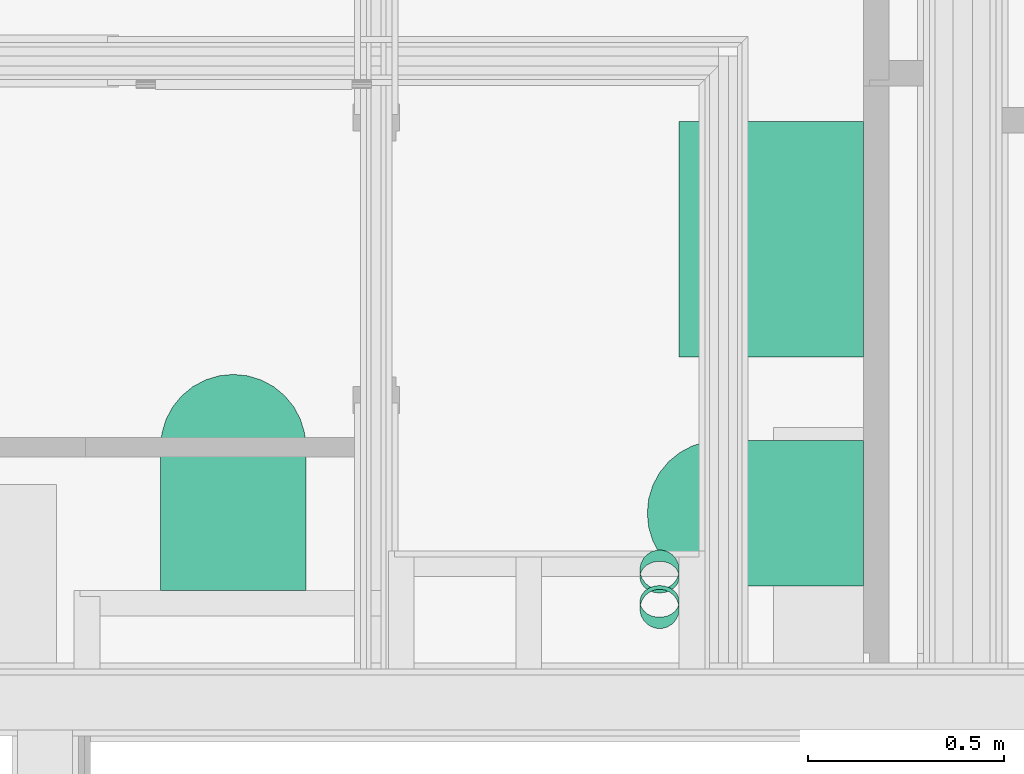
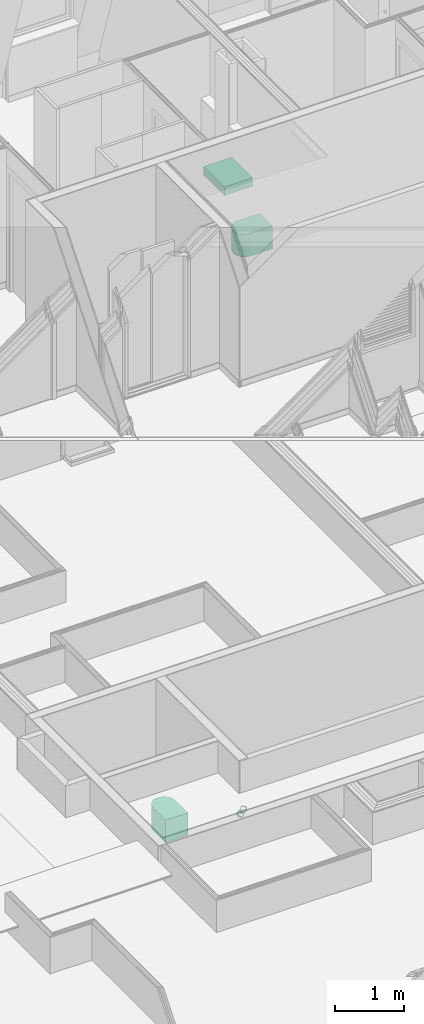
# One storey, part 158 of 169: 3 flow terminals, 2 flow fittings.
"""IFC2X3 building model written with IfcOpenShell, lengths in metres."""

from ifc_helpers import new_model, entity, si_unit, converted_unit, derived_unit, money_unit, direction, frame, origin_with_axes, place, context, subcontext, project, spatial, open_shell, faceted_brep, surface_model, material, type_object, element, save


model = new_model("IFC2X3")

# Units and contexts
model_context = context("Model", 3, precision=1e-05, world=origin_with_axes(), true_north=direction((0.0, 1.0)))
body_context = subcontext(model_context, "Body", "Model", "MODEL_VIEW", scale=1.0)
ifc_project = project(units=[si_unit("LENGTHUNIT", "METRE"), si_unit("AREAUNIT", "SQUARE_METRE"), si_unit("VOLUMEUNIT", "CUBIC_METRE"), si_unit("ABSORBEDDOSEUNIT", "GRAY"), si_unit("AMOUNTOFSUBSTANCEUNIT", "MOLE"), si_unit("DOSEEQUIVALENTUNIT", "SIEVERT"), si_unit("ELECTRICCAPACITANCEUNIT", "FARAD"), si_unit("ELECTRICCHARGEUNIT", "COULOMB"), si_unit("ELECTRICCONDUCTANCEUNIT", "SIEMENS"), si_unit("ELECTRICCURRENTUNIT", "AMPERE"), si_unit("ELECTRICRESISTANCEUNIT", "OHM"), si_unit("ELECTRICVOLTAGEUNIT", "VOLT"), si_unit("ENERGYUNIT", "JOULE"), si_unit("FORCEUNIT", "NEWTON"), si_unit("FREQUENCYUNIT", "HERTZ"), si_unit("ILLUMINANCEUNIT", "LUX"), si_unit("INDUCTANCEUNIT", "HENRY"), si_unit("LUMINOUSFLUXUNIT", "LUMEN"), si_unit("LUMINOUSINTENSITYUNIT", "CANDELA"), si_unit("MAGNETICFLUXDENSITYUNIT", "TESLA"), si_unit("MAGNETICFLUXUNIT", "WEBER"), si_unit("MASSUNIT", "GRAM"), converted_unit("PLANEANGLEUNIT", "degree", entity("IfcReal", 0.0174532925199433), si_unit("PLANEANGLEUNIT", "RADIAN"), dimensions=[0, 0, 0, 0, 0, 0, 0]), si_unit("POWERUNIT", "WATT"), si_unit("PRESSUREUNIT", "PASCAL"), si_unit("RADIOACTIVITYUNIT", "BECQUEREL"), si_unit("SOLIDANGLEUNIT", "STERADIAN"), si_unit("THERMODYNAMICTEMPERATUREUNIT", "KELVIN"), si_unit("TIMEUNIT", "SECOND"), derived_unit("ACCELERATIONUNIT", [(si_unit("LENGTHUNIT", "METRE"), 1), (si_unit("TIMEUNIT", "SECOND"), -2)]), derived_unit("ANGULARVELOCITYUNIT", [(converted_unit("PLANEANGLEUNIT", "degree", entity("IfcReal", 0.0174532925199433), si_unit("PLANEANGLEUNIT", "RADIAN"), dimensions=[0, 0, 0, 0, 0, 0, 0]), 1), (si_unit("TIMEUNIT", "SECOND"), -1)]), derived_unit("CURVATUREUNIT", [(converted_unit("PLANEANGLEUNIT", "degree", entity("IfcReal", 0.0174532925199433), si_unit("PLANEANGLEUNIT", "RADIAN"), dimensions=[0, 0, 0, 0, 0, 0, 0]), 1), (si_unit("LENGTHUNIT", "METRE"), -1)]), derived_unit("DYNAMICVISCOSITYUNIT", [(si_unit("PRESSUREUNIT", "PASCAL"), 1), (si_unit("TIMEUNIT", "SECOND"), 1)]), derived_unit("HEATFLUXDENSITYUNIT", [(si_unit("POWERUNIT", "WATT"), 1), (si_unit("LENGTHUNIT", "METRE"), -2)]), derived_unit("HEATINGVALUEUNIT", [(si_unit("ENERGYUNIT", "JOULE"), 1), (si_unit("MASSUNIT", "GRAM"), -1)]), derived_unit("INTEGERCOUNTRATEUNIT", [(si_unit("TIMEUNIT", "SECOND"), -1)]), derived_unit("IONCONCENTRATIONUNIT", [(si_unit("MASSUNIT", "GRAM"), 1), (si_unit("VOLUMEUNIT", "CUBIC_METRE"), -1)]), derived_unit("ISOTHERMALMOISTURECAPACITYUNIT", [(si_unit("VOLUMEUNIT", "CUBIC_METRE"), 1), (si_unit("MASSUNIT", "GRAM"), -1)]), derived_unit("KINEMATICVISCOSITYUNIT", [(si_unit("AREAUNIT", "SQUARE_METRE"), 1), (si_unit("TIMEUNIT", "SECOND"), -1)]), derived_unit("LINEARFORCEUNIT", [(si_unit("FORCEUNIT", "NEWTON"), 1), (si_unit("LENGTHUNIT", "METRE"), -1)]), derived_unit("LINEARMOMENTUNIT", [(si_unit("FORCEUNIT", "NEWTON"), 1), (si_unit("LENGTHUNIT", "METRE"), -1)]), derived_unit("LINEARSTIFFNESSUNIT", [(si_unit("FORCEUNIT", "NEWTON"), 1), (si_unit("LENGTHUNIT", "METRE"), -1)]), derived_unit("LINEARVELOCITYUNIT", [(si_unit("LENGTHUNIT", "METRE"), 1), (si_unit("TIMEUNIT", "SECOND"), -1)]), derived_unit("LUMINOUSINTENSITYDISTRIBUTIONUNIT", [(si_unit("LUMINOUSINTENSITYUNIT", "CANDELA"), 1), (si_unit("LUMINOUSFLUXUNIT", "LUMEN"), -1)]), derived_unit("MASSDENSITYUNIT", [(si_unit("MASSUNIT", "GRAM"), 1), (si_unit("VOLUMEUNIT", "CUBIC_METRE"), -1)]), derived_unit("MASSFLOWRATEUNIT", [(si_unit("MASSUNIT", "GRAM"), 1), (si_unit("TIMEUNIT", "SECOND"), -1)]), derived_unit("MASSPERLENGTHUNIT", [(si_unit("MASSUNIT", "GRAM"), 1), (si_unit("LENGTHUNIT", "METRE"), -1)]), derived_unit("MODULUSOFELASTICITYUNIT", [(si_unit("FORCEUNIT", "NEWTON"), 1), (si_unit("AREAUNIT", "SQUARE_METRE"), -1)]), derived_unit("MODULUSOFLINEARSUBGRADEREACTIONUNIT", [(si_unit("FORCEUNIT", "NEWTON"), 1), (si_unit("LENGTHUNIT", "METRE"), -2)]), derived_unit("MODULUSOFROTATIONALSUBGRADEREACTIONUNIT", [(si_unit("FORCEUNIT", "NEWTON"), 1), (si_unit("LENGTHUNIT", "METRE"), 1)]), derived_unit("MODULUSOFSUBGRADEREACTIONUNIT", [(si_unit("FORCEUNIT", "NEWTON"), 1), (si_unit("VOLUMEUNIT", "CUBIC_METRE"), -1)]), derived_unit("MOISTUREDIFFUSIVITYUNIT", [(si_unit("VOLUMEUNIT", "CUBIC_METRE"), 1), (si_unit("TIMEUNIT", "SECOND"), -1)]), derived_unit("MOLECULARWEIGHTUNIT", [(si_unit("MASSUNIT", "GRAM"), 1), (si_unit("AMOUNTOFSUBSTANCEUNIT", "MOLE"), -1)]), derived_unit("PLANARFORCEUNIT", [(si_unit("FORCEUNIT", "NEWTON"), 1), (si_unit("LENGTHUNIT", "METRE"), -2)]), derived_unit("ROTATIONALFREQUENCYUNIT", [(si_unit("TIMEUNIT", "SECOND"), -1)]), derived_unit("ROTATIONALMASSUNIT", [(si_unit("MASSUNIT", "GRAM"), 1), (si_unit("LENGTHUNIT", "METRE"), 2)]), derived_unit("ROTATIONALSTIFFNESSUNIT", [(si_unit("FORCEUNIT", "NEWTON"), 1), (si_unit("LENGTHUNIT", "METRE"), 1), (converted_unit("PLANEANGLEUNIT", "degree", entity("IfcReal", 0.0174532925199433), si_unit("PLANEANGLEUNIT", "RADIAN"), dimensions=[0, 0, 0, 0, 0, 0, 0]), -1)]), derived_unit("SECTIONAREAINTEGRALUNIT", [(si_unit("LENGTHUNIT", "METRE"), 5)]), derived_unit("SECTIONMODULUSUNIT", [(si_unit("LENGTHUNIT", "METRE"), 3)]), derived_unit("SHEARMODULUSUNIT", [(si_unit("FORCEUNIT", "NEWTON"), 1), (si_unit("AREAUNIT", "SQUARE_METRE"), -1)]), derived_unit("SOUNDPOWERUNIT", [(si_unit("ENERGYUNIT", "JOULE"), 1), (si_unit("TIMEUNIT", "SECOND"), -1)]), derived_unit("SPECIFICHEATCAPACITYUNIT", [(si_unit("FORCEUNIT", "NEWTON"), 1), (si_unit("MASSUNIT", "GRAM"), -1), (si_unit("THERMODYNAMICTEMPERATUREUNIT", "KELVIN"), -1)]), derived_unit("TEMPERATUREGRADIENTUNIT", [(si_unit("THERMODYNAMICTEMPERATUREUNIT", "KELVIN"), 1), (si_unit("LENGTHUNIT", "METRE"), -1)]), derived_unit("THERMALADMITTANCEUNIT", [(si_unit("POWERUNIT", "WATT"), 1), (si_unit("AREAUNIT", "SQUARE_METRE"), -1), (si_unit("THERMODYNAMICTEMPERATUREUNIT", "KELVIN"), -1)]), derived_unit("THERMALCONDUCTANCEUNIT", [(si_unit("POWERUNIT", "WATT"), 1), (si_unit("LENGTHUNIT", "METRE"), -1), (si_unit("THERMODYNAMICTEMPERATUREUNIT", "KELVIN"), -1)]), derived_unit("THERMALEXPANSIONCOEFFICIENTUNIT", [(si_unit("THERMODYNAMICTEMPERATUREUNIT", "KELVIN"), -1)]), derived_unit("THERMALRESISTANCEUNIT", [(si_unit("AREAUNIT", "SQUARE_METRE"), 1), (si_unit("POWERUNIT", "WATT"), -1)]), derived_unit("THERMALTRANSMITTANCEUNIT", [(si_unit("POWERUNIT", "WATT"), 1), (si_unit("AREAUNIT", "SQUARE_METRE"), -1), (si_unit("THERMODYNAMICTEMPERATUREUNIT", "KELVIN"), -1)]), derived_unit("TORQUEUNIT", [(si_unit("FORCEUNIT", "NEWTON"), 1), (si_unit("LENGTHUNIT", "METRE"), 1)]), derived_unit("VAPORPERMEABILITYUNIT", [(si_unit("MASSUNIT", "GRAM"), 1), (si_unit("TIMEUNIT", "SECOND"), -1)]), derived_unit("VOLUMETRICFLOWRATEUNIT", [(si_unit("VOLUMEUNIT", "CUBIC_METRE"), 1), (si_unit("TIMEUNIT", "SECOND"), -1)]), derived_unit("WARPINGCONSTANTUNIT", [(si_unit("LENGTHUNIT", "METRE"), 6)]), derived_unit("WARPINGMOMENTUNIT", [(si_unit("FORCEUNIT", "NEWTON"), 1), (si_unit("LENGTHUNIT", "METRE"), 2)]), money_unit("GBP")], contexts=[model_context])

# Site, building, storey, space
site_placement = place(None, origin_with_axes())
site = spatial("IfcSite", under=ifc_project, at=site_placement, Name="Site", CompositionType="ELEMENT")
building_placement = place(site_placement, origin_with_axes())
building = spatial("IfcBuilding", under=site, at=building_placement, Name="Building01", CompositionType="ELEMENT")
storey_placement = place(building_placement, frame((0.0, 0.0, 5.15), z_axis=(0.0, 0.0, 1.0), x_axis=(1.0, 0.0, 0.0)))
storey = spatial("IfcBuildingStorey", under=building, at=storey_placement, Name="1F", CompositionType="ELEMENT", Elevation=5.15)
space_1_placement = place(storey_placement, frame((12.893585, 8.82, 0.017975), z_axis=(0.0, 0.0, 1.0), x_axis=(0.0, 1.0, 0.0)))
space_1 = spatial("IfcSpace", under=storey, at=space_1_placement, Name="bath", CompositionType="ELEMENT", InteriorOrExteriorSpace="NOTDEFINED")

# Flow fittings
ifc_material = material(Name="M_BSUK_ColdWater")
pipe_fitting_type = type_object("IfcPipeFittingType", Name="M-BmpElbow-DefaultElbow", PredefinedType="BEND")
placement = place(building_placement, origin_with_axes())
flow_fitting_1_placement = place(placement, frame((12.778585, 8.973056, 5.357462), z_axis=(0.0, -1.0, 0.0), x_axis=(0.0, 0.0, -1.0)))
element("IfcFlowFitting", 1, at=flow_fitting_1_placement, inside=space_1, type_object=pipe_fitting_type, material=ifc_material, Name="M-BmpElbow-DefaultElbow", ObjectType="M-BmpElbow-DefaultElbow", context=body_context, shape_type="SurfaceModel", body=[
    surface_model("IfcShellBasedSurfaceModel", [(0.008104, -0.01349, -0.048783), (0.0, -0.01349, -0.048146), (0.0, 0.0, -0.05), (0.007814, 0.0, -0.050614), (0.016009, -0.01349, -0.050679), (0.015436, 0.0, -0.052442), (0.02352, -0.01349, -0.053787), (0.022679, 0.0, -0.055439), (0.030453, -0.01349, -0.05803), (0.029364, 0.0, -0.059531), (0.008952, -0.025979, -0.043425), (0.0, -0.025979, -0.042721), (0.017683, -0.025979, -0.045519), (0.025981, -0.025979, -0.048952), (0.033639, -0.025979, -0.05364), (0.010295, -0.036542, -0.034937), (0.0, -0.036542, -0.034128), (0.020336, -0.036542, -0.037345), (0.029878, -0.036542, -0.041294), (0.038686, -0.036542, -0.046684), (0.012033, -0.044394, -0.023949), (0.0, -0.044394, -0.023003), (0.023771, -0.044394, -0.026764), (0.034924, -0.044394, -0.031379), (0.045219, -0.044394, -0.037681), (0.014038, -0.048954, -0.011277), (0.0, -0.048954, -0.010173), (0.027732, -0.048954, -0.014561), (0.040744, -0.048954, -0.019945), (0.052754, -0.048954, -0.027296), (0.016162, -0.049883, 0.002141), (0.0, -0.049883, 0.003412), (0.031926, -0.049883, -0.001639), (0.046906, -0.049883, -0.007837), (0.060733, -0.049883, -0.0163), (0.018245, -0.047113, 0.015309), (0.0, -0.047113, 0.016744), (0.036042, -0.047113, 0.011041), (0.052953, -0.047113, 0.004044), (0.068562, -0.047113, -0.00551), (0.020135, -0.040848, 0.027251), (0.0, -0.040848, 0.028834), (0.039774, -0.040848, 0.022541), (0.058436, -0.040848, 0.014819), (0.075663, -0.040848, 0.004275), (0.02169, -0.031554, 0.03708), (0.0, -0.031554, 0.038786), (0.042847, -0.031554, 0.032006), (0.06295, -0.031554, 0.023688), (0.081507, -0.031554, 0.01233), (0.022795, -0.01992, 0.044068), (0.0, -0.01992, 0.045861), (0.045031, -0.01992, 0.038735), (0.066159, -0.01992, 0.029993), (0.085662, -0.01992, 0.018056), (0.02337, -0.006808, 0.047697), (0.0, -0.006808, 0.049534), (0.046165, -0.006808, 0.04223), (0.067826, -0.006808, 0.033267), (0.08782, -0.006808, 0.02103), (0.02337, 0.006808, 0.047697), (0.0, 0.006808, 0.049534), (0.046165, 0.006808, 0.04223), (0.067826, 0.006808, 0.033267), (0.08782, 0.006808, 0.02103), (0.022795, 0.01992, 0.044068), (0.0, 0.01992, 0.045861), (0.045031, 0.01992, 0.038735), (0.066159, 0.01992, 0.029993), (0.085662, 0.01992, 0.018056), (0.02169, 0.031554, 0.03708), (0.0, 0.031554, 0.038786), (0.042847, 0.031554, 0.032006), (0.06295, 0.031554, 0.023688), (0.081507, 0.031554, 0.01233), (0.020135, 0.040848, 0.027251), (0.0, 0.040848, 0.028834), (0.039774, 0.040848, 0.022541), (0.058436, 0.040848, 0.014819), (0.075663, 0.040848, 0.004275), (0.018245, 0.047113, 0.015309), (0.0, 0.047113, 0.016744), (0.036042, 0.047113, 0.011041), (0.052953, 0.047113, 0.004044), (0.068562, 0.047113, -0.00551), (0.016162, 0.049883, 0.002141), (0.0, 0.049883, 0.003412), (0.031926, 0.049883, -0.001639), (0.046906, 0.049883, -0.007837), (0.060733, 0.049883, -0.0163), (0.014038, 0.048954, -0.011277), (0.0, 0.048954, -0.010173), (0.027732, 0.048954, -0.014561), (0.040744, 0.048954, -0.019945), (0.052754, 0.048954, -0.027296), (0.012033, 0.044394, -0.023949), (0.0, 0.044394, -0.023003), (0.023771, 0.044394, -0.026764), (0.034924, 0.044394, -0.031379), (0.045219, 0.044394, -0.037681), (0.010295, 0.036542, -0.034937), (0.0, 0.036542, -0.034128), (0.020336, 0.036542, -0.037345), (0.029878, 0.036542, -0.041294), (0.038686, 0.036542, -0.046684), (0.008952, 0.025979, -0.043425), (0.0, 0.025979, -0.042721), (0.017683, 0.025979, -0.045519), (0.025981, 0.025979, -0.048952), (0.033639, 0.025979, -0.05364), (0.008104, 0.01349, -0.048783), (0.0, 0.01349, -0.048146), (0.016009, 0.01349, -0.050679), (0.02352, 0.01349, -0.053787), (0.030453, 0.01349, -0.05803)], [open_shell([[[0, 1, 2, 3]], [[4, 0, 3, 5]], [[6, 4, 5, 7]], [[8, 6, 7, 9]], [[10, 11, 1, 0]], [[12, 10, 0, 4]], [[13, 12, 4, 6]], [[14, 13, 6, 8]], [[15, 16, 11, 10]], [[17, 15, 10, 12]], [[18, 17, 12, 13]], [[19, 18, 13, 14]], [[20, 21, 16, 15]], [[22, 20, 15, 17]], [[23, 22, 17, 18]], [[24, 23, 18, 19]], [[25, 26, 21, 20]], [[27, 25, 20, 22]], [[28, 27, 22, 23]], [[29, 28, 23, 24]], [[30, 31, 26, 25]], [[32, 30, 25, 27]], [[33, 32, 27, 28]], [[34, 33, 28, 29]], [[35, 36, 31, 30]], [[37, 35, 30, 32]], [[38, 37, 32, 33]], [[39, 38, 33, 34]], [[40, 41, 36, 35]], [[42, 40, 35, 37]], [[43, 42, 37, 38]], [[44, 43, 38, 39]], [[45, 46, 41, 40]], [[47, 45, 40, 42]], [[48, 47, 42, 43]], [[49, 48, 43, 44]], [[50, 51, 46, 45]], [[52, 50, 45, 47]], [[53, 52, 47, 48]], [[54, 53, 48, 49]], [[55, 56, 51, 50]], [[57, 55, 50, 52]], [[58, 57, 52, 53]], [[59, 58, 53, 54]], [[60, 61, 56, 55]], [[62, 60, 55, 57]], [[63, 62, 57, 58]], [[64, 63, 58, 59]], [[65, 66, 61, 60]], [[67, 65, 60, 62]], [[68, 67, 62, 63]], [[69, 68, 63, 64]], [[70, 71, 66, 65]], [[72, 70, 65, 67]], [[73, 72, 67, 68]], [[74, 73, 68, 69]], [[75, 76, 71, 70]], [[77, 75, 70, 72]], [[78, 77, 72, 73]], [[79, 78, 73, 74]], [[80, 81, 76, 75]], [[82, 80, 75, 77]], [[83, 82, 77, 78]], [[84, 83, 78, 79]], [[85, 86, 81, 80]], [[87, 85, 80, 82]], [[88, 87, 82, 83]], [[89, 88, 83, 84]], [[90, 91, 86, 85]], [[92, 90, 85, 87]], [[93, 92, 87, 88]], [[94, 93, 88, 89]], [[95, 96, 91, 90]], [[97, 95, 90, 92]], [[98, 97, 92, 93]], [[99, 98, 93, 94]], [[100, 101, 96, 95]], [[102, 100, 95, 97]], [[103, 102, 97, 98]], [[104, 103, 98, 99]], [[105, 106, 101, 100]], [[107, 105, 100, 102]], [[108, 107, 102, 103]], [[109, 108, 103, 104]], [[110, 111, 106, 105]], [[112, 110, 105, 107]], [[113, 112, 107, 108]], [[114, 113, 108, 109]], [[3, 2, 111, 110]], [[5, 3, 110, 112]], [[7, 5, 112, 113]], [[9, 7, 113, 114]]])]),
])
flow_fitting_2_placement = place(placement, frame((12.778585, 9.053994, 5.213459), z_axis=(0.0, 0.8093782, 0.58728777), x_axis=(0.0, 0.58728776, -0.80937821)))
element("IfcFlowFitting", 2, at=flow_fitting_2_placement, inside=space_1, type_object=pipe_fitting_type, material=ifc_material, Name="M-BmpElbow-DefaultElbow", ObjectType="M-BmpElbow-DefaultElbow", context=body_context, shape_type="SurfaceModel", body=[
    surface_model("IfcShellBasedSurfaceModel", [(0.008104, -0.01349, -0.048783), (0.0, -0.01349, -0.048146), (0.0, 0.0, -0.05), (0.007814, 0.0, -0.050614), (0.016009, -0.01349, -0.050679), (0.015436, 0.0, -0.052442), (0.02352, -0.01349, -0.053787), (0.022679, 0.0, -0.055439), (0.030453, -0.01349, -0.05803), (0.029364, 0.0, -0.059531), (0.008952, -0.025979, -0.043425), (0.0, -0.025979, -0.042721), (0.017683, -0.025979, -0.045519), (0.025981, -0.025979, -0.048952), (0.033639, -0.025979, -0.05364), (0.010295, -0.036542, -0.034937), (0.0, -0.036542, -0.034128), (0.020336, -0.036542, -0.037345), (0.029878, -0.036542, -0.041294), (0.038686, -0.036542, -0.046684), (0.012033, -0.044394, -0.023949), (0.0, -0.044394, -0.023003), (0.023771, -0.044394, -0.026764), (0.034924, -0.044394, -0.031379), (0.045219, -0.044394, -0.037681), (0.014038, -0.048954, -0.011277), (0.0, -0.048954, -0.010173), (0.027732, -0.048954, -0.014561), (0.040744, -0.048954, -0.019945), (0.052754, -0.048954, -0.027296), (0.016162, -0.049883, 0.002141), (0.0, -0.049883, 0.003412), (0.031926, -0.049883, -0.001639), (0.046906, -0.049883, -0.007837), (0.060733, -0.049883, -0.0163), (0.018245, -0.047113, 0.015309), (0.0, -0.047113, 0.016744), (0.036042, -0.047113, 0.011041), (0.052953, -0.047113, 0.004044), (0.068562, -0.047113, -0.00551), (0.020135, -0.040848, 0.027251), (0.0, -0.040848, 0.028834), (0.039774, -0.040848, 0.022541), (0.058436, -0.040848, 0.014819), (0.075663, -0.040848, 0.004275), (0.02169, -0.031554, 0.03708), (0.0, -0.031554, 0.038786), (0.042847, -0.031554, 0.032006), (0.06295, -0.031554, 0.023688), (0.081507, -0.031554, 0.01233), (0.022795, -0.01992, 0.044068), (0.0, -0.01992, 0.045861), (0.045031, -0.01992, 0.038735), (0.066159, -0.01992, 0.029993), (0.085662, -0.01992, 0.018056), (0.02337, -0.006808, 0.047697), (0.0, -0.006808, 0.049534), (0.046165, -0.006808, 0.04223), (0.067826, -0.006808, 0.033267), (0.08782, -0.006808, 0.02103), (0.02337, 0.006808, 0.047697), (0.0, 0.006808, 0.049534), (0.046165, 0.006808, 0.04223), (0.067826, 0.006808, 0.033267), (0.08782, 0.006808, 0.02103), (0.022795, 0.01992, 0.044068), (0.0, 0.01992, 0.045861), (0.045031, 0.01992, 0.038735), (0.066159, 0.01992, 0.029993), (0.085662, 0.01992, 0.018056), (0.02169, 0.031554, 0.03708), (0.0, 0.031554, 0.038786), (0.042847, 0.031554, 0.032006), (0.06295, 0.031554, 0.023688), (0.081507, 0.031554, 0.01233), (0.020135, 0.040848, 0.027251), (0.0, 0.040848, 0.028834), (0.039774, 0.040848, 0.022541), (0.058436, 0.040848, 0.014819), (0.075663, 0.040848, 0.004275), (0.018245, 0.047113, 0.015309), (0.0, 0.047113, 0.016744), (0.036042, 0.047113, 0.011041), (0.052953, 0.047113, 0.004044), (0.068562, 0.047113, -0.00551), (0.016162, 0.049883, 0.002141), (0.0, 0.049883, 0.003412), (0.031926, 0.049883, -0.001639), (0.046906, 0.049883, -0.007837), (0.060733, 0.049883, -0.0163), (0.014038, 0.048954, -0.011277), (0.0, 0.048954, -0.010173), (0.027732, 0.048954, -0.014561), (0.040744, 0.048954, -0.019945), (0.052754, 0.048954, -0.027296), (0.012033, 0.044394, -0.023949), (0.0, 0.044394, -0.023003), (0.023771, 0.044394, -0.026764), (0.034924, 0.044394, -0.031379), (0.045219, 0.044394, -0.037681), (0.010295, 0.036542, -0.034937), (0.0, 0.036542, -0.034128), (0.020336, 0.036542, -0.037345), (0.029878, 0.036542, -0.041294), (0.038686, 0.036542, -0.046684), (0.008952, 0.025979, -0.043425), (0.0, 0.025979, -0.042721), (0.017683, 0.025979, -0.045519), (0.025981, 0.025979, -0.048952), (0.033639, 0.025979, -0.05364), (0.008104, 0.01349, -0.048783), (0.0, 0.01349, -0.048146), (0.016009, 0.01349, -0.050679), (0.02352, 0.01349, -0.053787), (0.030453, 0.01349, -0.05803)], [open_shell([[[0, 1, 2, 3]], [[4, 0, 3, 5]], [[6, 4, 5, 7]], [[8, 6, 7, 9]], [[10, 11, 1, 0]], [[12, 10, 0, 4]], [[13, 12, 4, 6]], [[14, 13, 6, 8]], [[15, 16, 11, 10]], [[17, 15, 10, 12]], [[18, 17, 12, 13]], [[19, 18, 13, 14]], [[20, 21, 16, 15]], [[22, 20, 15, 17]], [[23, 22, 17, 18]], [[24, 23, 18, 19]], [[25, 26, 21, 20]], [[27, 25, 20, 22]], [[28, 27, 22, 23]], [[29, 28, 23, 24]], [[30, 31, 26, 25]], [[32, 30, 25, 27]], [[33, 32, 27, 28]], [[34, 33, 28, 29]], [[35, 36, 31, 30]], [[37, 35, 30, 32]], [[38, 37, 32, 33]], [[39, 38, 33, 34]], [[40, 41, 36, 35]], [[42, 40, 35, 37]], [[43, 42, 37, 38]], [[44, 43, 38, 39]], [[45, 46, 41, 40]], [[47, 45, 40, 42]], [[48, 47, 42, 43]], [[49, 48, 43, 44]], [[50, 51, 46, 45]], [[52, 50, 45, 47]], [[53, 52, 47, 48]], [[54, 53, 48, 49]], [[55, 56, 51, 50]], [[57, 55, 50, 52]], [[58, 57, 52, 53]], [[59, 58, 53, 54]], [[60, 61, 56, 55]], [[62, 60, 55, 57]], [[63, 62, 57, 58]], [[64, 63, 58, 59]], [[65, 66, 61, 60]], [[67, 65, 60, 62]], [[68, 67, 62, 63]], [[69, 68, 63, 64]], [[70, 71, 66, 65]], [[72, 70, 65, 67]], [[73, 72, 67, 68]], [[74, 73, 68, 69]], [[75, 76, 71, 70]], [[77, 75, 70, 72]], [[78, 77, 72, 73]], [[79, 78, 73, 74]], [[80, 81, 76, 75]], [[82, 80, 75, 77]], [[83, 82, 77, 78]], [[84, 83, 78, 79]], [[85, 86, 81, 80]], [[87, 85, 80, 82]], [[88, 87, 82, 83]], [[89, 88, 83, 84]], [[90, 91, 86, 85]], [[92, 90, 85, 87]], [[93, 92, 87, 88]], [[94, 93, 88, 89]], [[95, 96, 91, 90]], [[97, 95, 90, 92]], [[98, 97, 92, 93]], [[99, 98, 93, 94]], [[100, 101, 96, 95]], [[102, 100, 95, 97]], [[103, 102, 97, 98]], [[104, 103, 98, 99]], [[105, 106, 101, 100]], [[107, 105, 100, 102]], [[108, 107, 102, 103]], [[109, 108, 103, 104]], [[110, 111, 106, 105]], [[112, 110, 105, 107]], [[113, 112, 107, 108]], [[114, 113, 108, 109]], [[3, 2, 111, 110]], [[5, 3, 110, 112]], [[7, 5, 112, 113]], [[9, 7, 113, 114]]])]),
])

# Space
space_2_placement = place(storey_placement, frame((1.009939, 13.890379, 9.86), z_axis=(0.0, 0.0, 1.0), x_axis=(0.0, -1.0, 0.0)))
space_2 = spatial("IfcSpace", under=storey, at=space_2_placement, Name="26", CompositionType="ELEMENT", InteriorOrExteriorSpace="NOTDEFINED")

# Flow terminal
sanitary_terminal_type_1 = type_object("IfcSanitaryTerminalType", Name="SHE_A-Sink_47x60", PredefinedType="NOTDEFINED")
flow_terminal_1_placement = place(storey_placement, frame((13.06236, 9.913849, 10.650999), z_axis=(0.0, 0.0, 1.0), x_axis=(1.0, 0.0, 0.0)))
element("IfcFlowTerminal", 3, at=flow_terminal_1_placement, inside=space_2, type_object=sanitary_terminal_type_1, Name="26", ObjectType="SHE_A-Sink_47x60", context=body_context, shape_type="Brep", body=[
    faceted_brep([(-0.235, 0.3, -0.075), (-0.235, 0.3, 0.075), (0.235, 0.3, 0.075), (0.235, 0.3, -0.075), (-0.235, -0.3, -0.075), (-0.235, -0.3, 0.075), (0.235, -0.3, -0.075), (0.235, -0.3, 0.075)], [[[0, 1, 2, 3]], [[4, 5, 1, 0]], [[6, 7, 5, 4]], [[3, 2, 7, 6]], [[1, 5, 7, 2]], [[3, 6, 4, 0]]]),
])

# Space
space_3_placement = place(storey_placement, frame((7.289669, 14.582, 0.017975), z_axis=(0.0, 0.0, 1.0), x_axis=(0.0, -1.0, 0.0)))
space_3 = spatial("IfcSpace", under=storey, at=space_3_placement, Name="08", CompositionType="ELEMENT", InteriorOrExteriorSpace="NOTDEFINED")

# Flow terminal
sanitary_terminal_type_2 = type_object("IfcSanitaryTerminalType", Name="SHE_A-Toilet_base", PredefinedType="NOTDEFINED")
flow_terminal_2_placement = place(storey_placement, frame((11.693576, 9.295001, 0.2), z_axis=(0.0, 0.0, 1.0), x_axis=(0.0, -1.0, 0.0)))
element("IfcFlowTerminal", 4, at=flow_terminal_2_placement, inside=space_3, type_object=sanitary_terminal_type_2, Name="08", ObjectType="SHE_A-Toilet_base", context=body_context, shape_type="Brep", body=[
    faceted_brep([(0.275003, 0.185008, -0.2), (0.275003, -0.185009, -0.2), (-0.089995, -0.185009, -0.2), (-0.126088, -0.181454, -0.2), (-0.160795, -0.170926, -0.2), (-0.19278, -0.153829, -0.2), (-0.220816, -0.130821, -0.2), (-0.243824, -0.102785, -0.2), (-0.26092, -0.0708, -0.2), (-0.271448, -0.036093, -0.2), (-0.275003, 0.0, -0.2), (-0.271448, 0.036093, -0.2), (-0.26092, 0.0708, -0.2), (-0.243824, 0.102785, -0.2), (-0.220816, 0.130821, -0.2), (-0.19278, 0.153829, -0.2), (-0.160795, 0.170926, -0.2), (-0.126088, 0.181454, -0.2), (-0.089995, 0.185008, -0.2), (-0.089995, 0.185008, 0.2), (-0.126088, 0.181454, 0.2), (-0.160795, 0.170926, 0.2), (-0.19278, 0.153829, 0.2), (-0.220816, 0.130821, 0.2), (-0.243824, 0.102785, 0.2), (-0.26092, 0.0708, 0.2), (-0.271448, 0.036093, 0.2), (-0.275003, 0.0, 0.2), (-0.271448, -0.036093, 0.2), (-0.26092, -0.0708, 0.2), (-0.243824, -0.102785, 0.2), (-0.220816, -0.130821, 0.2), (-0.19278, -0.153829, 0.2), (-0.160795, -0.170926, 0.2), (-0.126088, -0.181454, 0.2), (-0.089995, -0.185009, 0.2), (0.275003, -0.185009, 0.2), (0.275003, 0.185008, 0.2)], [[[0, 1, 2, 3, 4, 5, 6, 7, 8, 9, 10, 11, 12, 13, 14, 15, 16, 17, 18]], [[19, 20, 21, 22, 23, 24, 25, 26, 27, 28, 29, 30, 31, 32, 33, 34, 35, 36, 37]], [[2, 35, 34, 3]], [[3, 34, 33, 4]], [[4, 33, 32, 5]], [[5, 32, 31, 6]], [[6, 31, 30, 7]], [[7, 30, 29, 8]], [[8, 29, 28, 9]], [[9, 28, 27, 10]], [[10, 27, 26, 11]], [[11, 26, 25, 12]], [[12, 25, 24, 13]], [[13, 24, 23, 14]], [[14, 23, 22, 15]], [[15, 22, 21, 16]], [[16, 21, 20, 17]], [[17, 20, 19, 18]], [[1, 36, 35, 2]], [[0, 37, 36, 1]], [[18, 19, 37, 0]]]),
])

# Space
space_4_placement = place(storey_placement, frame((13.45, 11.103849, 9.86), z_axis=(0.0, 0.0, 1.0), x_axis=(-1.0, 0.0, 0.0)))
space_4 = spatial("IfcSpace", under=storey, at=space_4_placement, Name="ensuite", CompositionType="ELEMENT", InteriorOrExteriorSpace="NOTDEFINED")

# Flow terminal
flow_terminal_3_placement = place(storey_placement, frame((13.022252, 9.216916, 10.03), z_axis=(0.0, 0.0, 1.0), x_axis=(1.0, 0.0, 0.0)))
element("IfcFlowTerminal", 5, at=flow_terminal_3_placement, inside=space_4, type_object=sanitary_terminal_type_2, Name="26", ObjectType="SHE_A-Toilet_base", context=body_context, shape_type="Brep", body=[
    faceted_brep([(0.275003, 0.185008, -0.2), (0.275003, -0.185009, -0.2), (-0.089995, -0.185009, -0.2), (-0.126088, -0.181454, -0.2), (-0.160795, -0.170926, -0.2), (-0.19278, -0.153829, -0.2), (-0.220816, -0.130821, -0.2), (-0.243824, -0.102785, -0.2), (-0.26092, -0.0708, -0.2), (-0.271448, -0.036093, -0.2), (-0.275003, 0.0, -0.2), (-0.271448, 0.036093, -0.2), (-0.26092, 0.0708, -0.2), (-0.243824, 0.102785, -0.2), (-0.220816, 0.130821, -0.2), (-0.19278, 0.153829, -0.2), (-0.160795, 0.170926, -0.2), (-0.126088, 0.181454, -0.2), (-0.089995, 0.185008, -0.2), (-0.089995, 0.185008, 0.2), (-0.126088, 0.181454, 0.2), (-0.160795, 0.170926, 0.2), (-0.19278, 0.153829, 0.2), (-0.220816, 0.130821, 0.2), (-0.243824, 0.102785, 0.2), (-0.26092, 0.0708, 0.2), (-0.271448, 0.036093, 0.2), (-0.275003, 0.0, 0.2), (-0.271448, -0.036093, 0.2), (-0.26092, -0.0708, 0.2), (-0.243824, -0.102785, 0.2), (-0.220816, -0.130821, 0.2), (-0.19278, -0.153829, 0.2), (-0.160795, -0.170926, 0.2), (-0.126088, -0.181454, 0.2), (-0.089995, -0.185009, 0.2), (0.275003, -0.185009, 0.2), (0.275003, 0.185008, 0.2)], [[[0, 1, 2, 3, 4, 5, 6, 7, 8, 9, 10, 11, 12, 13, 14, 15, 16, 17, 18]], [[19, 20, 21, 22, 23, 24, 25, 26, 27, 28, 29, 30, 31, 32, 33, 34, 35, 36, 37]], [[2, 35, 34, 3]], [[3, 34, 33, 4]], [[4, 33, 32, 5]], [[5, 32, 31, 6]], [[6, 31, 30, 7]], [[7, 30, 29, 8]], [[8, 29, 28, 9]], [[9, 28, 27, 10]], [[10, 27, 26, 11]], [[11, 26, 25, 12]], [[12, 25, 24, 13]], [[13, 24, 23, 14]], [[14, 23, 22, 15]], [[15, 22, 21, 16]], [[16, 21, 20, 17]], [[17, 20, 19, 18]], [[1, 36, 35, 2]], [[0, 37, 36, 1]], [[18, 19, 37, 0]]]),
])

save(model, "model.ifc")
